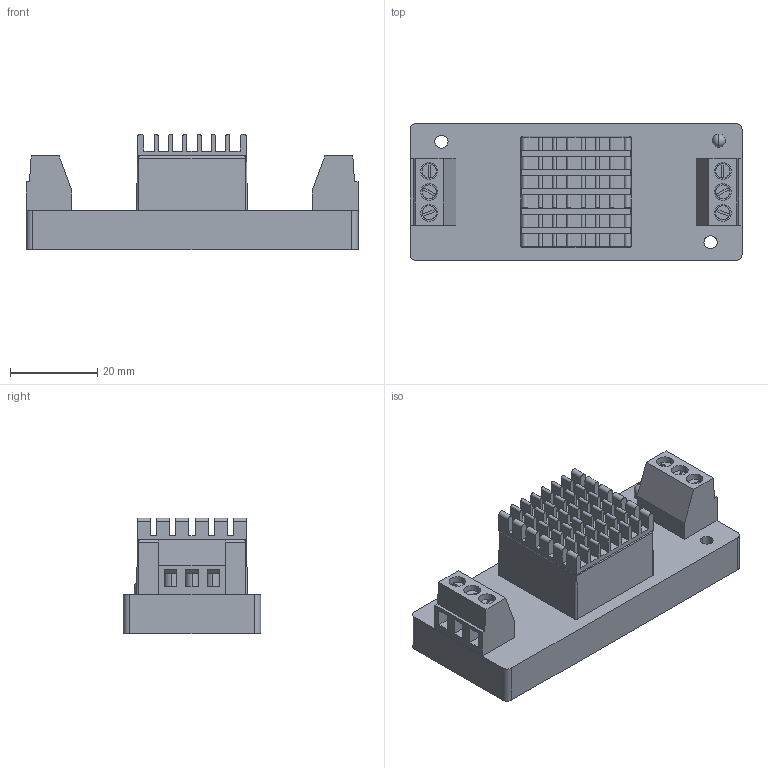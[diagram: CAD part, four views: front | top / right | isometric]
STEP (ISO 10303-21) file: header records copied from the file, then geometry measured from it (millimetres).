
FILE_DESCRIPTION(/* description */ (''),/* implementation_level */ '2;1');
FILE_NAME(/* name */ 'PFD30-XXSXXA3(R)2-(TH).stp',/* time_stamp */ '2025-09-09T10:27:34+08:00',/* author */ (''),/* organization */ (''),/* preprocessor_version */ 'ST-DEVELOPER v16',/* originating_system */ 'SIEMENS PLM Software NX 10.0',/* authorisation */ '123');
FILE_SCHEMA (('AUTOMOTIVE_DESIGN { 1 0 10303 214 3 1 1 1 }'));
Length unit declared in the file: millimetre
Products named in the file (1): admi9E78CA83aq2b
Bounding box: 76 x 31.5 x 26.5 mm (x, y, z)
Volume: 33466.2 mm3; surface area: 15894.8 mm2
Topology: 17 solids, 17 shells, 377 faces, 1036 edges, 709 vertices
Faces by surface type: plane 257, cylinder 104, sphere 8, bspline 8
Full cylindrical faces by diameter (mm): 1 x12
Entity records: 14172 total; most frequent: CARTESIAN_POINT 3467, ORIENTED_EDGE 1984, DIRECTION 1966, EDGE_CURVE 992, LINE 726, VECTOR 726, VERTEX_POINT 665, AXIS2_PLACEMENT_3D 620
